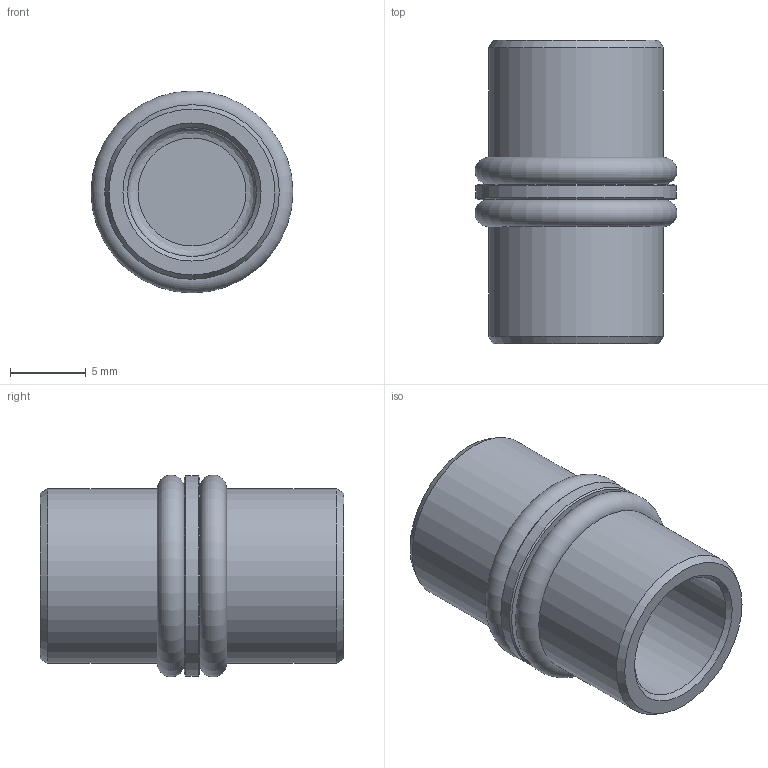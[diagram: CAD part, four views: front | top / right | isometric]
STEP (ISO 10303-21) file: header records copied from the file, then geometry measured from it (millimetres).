
FILE_DESCRIPTION((''),'2;1');
FILE_NAME('I:\Area Tecnica\Disegni\VARIE-3D\Componenti\400\STEP\T488_31.stp','2008-10-10T08:11:32',('pilonfr1'),(''),'Autodesk Inventor 2009','Autodesk Inventor 2009','');
FILE_SCHEMA(('AUTOMOTIVE_DESIGN { 1 0 10303 214 1 1 1 1 }'));
Length unit declared in the file: millimetre
Products named in the file (1): T488_31
Bounding box: 13.3 x 20 x 13.3 mm (x, y, z)
Volume: 1149.6 mm3; surface area: 1545.6 mm2
Topology: 1 solids, 1 shells, 21 faces, 35 edges, 20 vertices
Faces by surface type: plane 6, cone 6, cylinder 5, bspline 2, torus 2
Full cylindrical faces by diameter (mm): 8.5 x2, 11.5 x2, 13.2 x1
Entity records: 531 total; most frequent: CARTESIAN_POINT 150, DIRECTION 80, AXIS2_PLACEMENT_3D 40, ORIENTED_EDGE 40, EDGE_LOOP 40, FACE_OUTER_BOUND 21, ADVANCED_FACE 21, VERTEX_POINT 20
